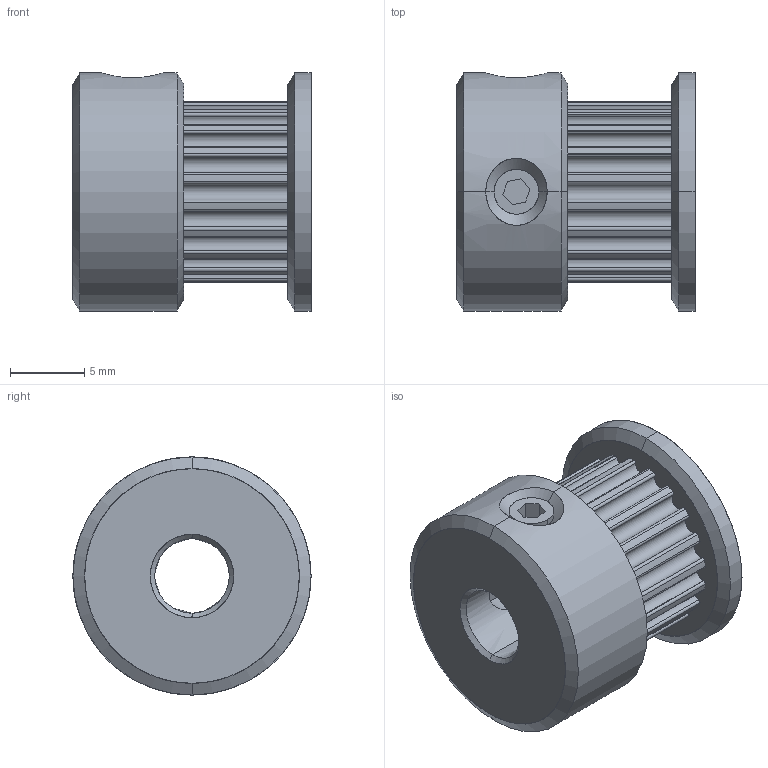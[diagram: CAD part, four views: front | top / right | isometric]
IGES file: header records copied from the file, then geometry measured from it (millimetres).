
Start section: SolidWorks IGES file using analytic representation for surfaces
Global section: file name: E:\3D printer\GT2-20T\GT2_20T.IGS; native system: SolidWorks 2013; preprocessor: SolidWorks 2013; author: Admin; date: 161114.151220; units: millimetre
Bounding box: 16 x 16 x 16 mm (x, y, z)
Surface area: 1794.3 mm2 (no closed solid volume)
Topology: 0 solids, 0 shells, 160 faces, 1520 edges, 1520 vertices
Faces by surface type: revolution 133, bspline 27
